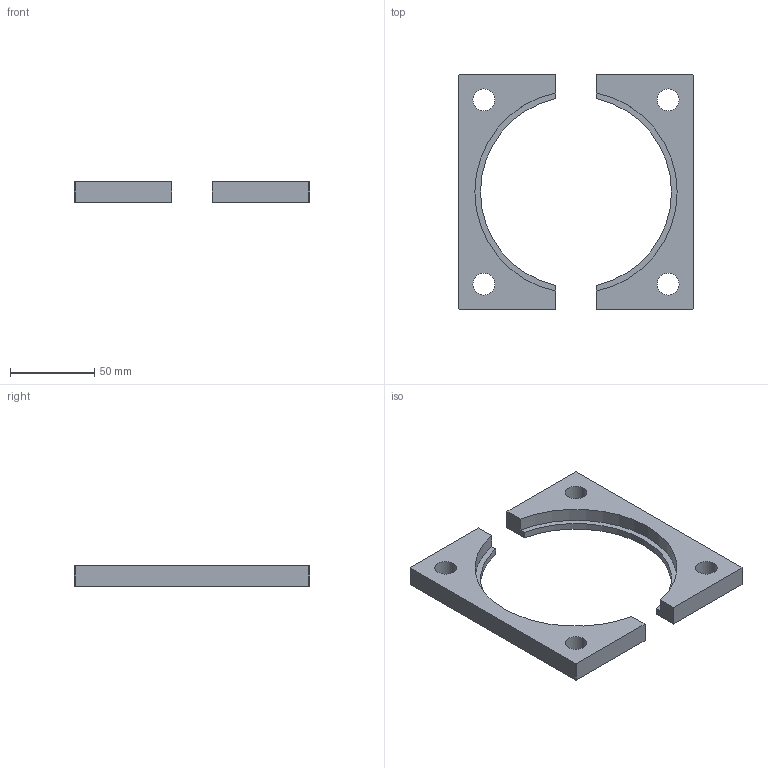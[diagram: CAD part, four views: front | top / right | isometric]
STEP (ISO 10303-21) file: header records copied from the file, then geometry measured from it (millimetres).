
FILE_DESCRIPTION(/* description */ (''),/* implementation_level */ '2;1');
FILE_NAME(/* name */ 'C:\Users\Jefferson\Desktop\Biblioteca Pro Nitro 2024\Flanges\PNB-55-XXX\PNB-55-120.stp',/* time_stamp */ '2024-01-26T15:46:50-03:00',/* author */ ('Jefferson'),/* organization */ (''),/* preprocessor_version */ 'ST-DEVELOPER v18.1',/* originating_system */ 'Autodesk Inventor 2021',/* authorisation */ '');
FILE_SCHEMA (('AUTOMOTIVE_DESIGN { 1 0 10303 214 3 1 1 }'));
Length unit declared in the file: millimetre
Products named in the file (1): PNB-55-120
Bounding box: 140 x 140 x 12 mm (x, y, z)
Volume: 90982.2 mm3; surface area: 29158 mm2
Topology: 2 solids, 2 shells, 180 faces, 486 edges, 324 vertices
Faces by surface type: plane 100, bspline 72, cylinder 8
Full cylindrical faces by diameter (mm): 13 x4
Entity records: 6034 total; most frequent: CARTESIAN_POINT 1927, ORIENTED_EDGE 972, DIRECTION 576, EDGE_CURVE 486, LINE 326, VECTOR 326, VERTEX_POINT 324, EDGE_LOOP 202
